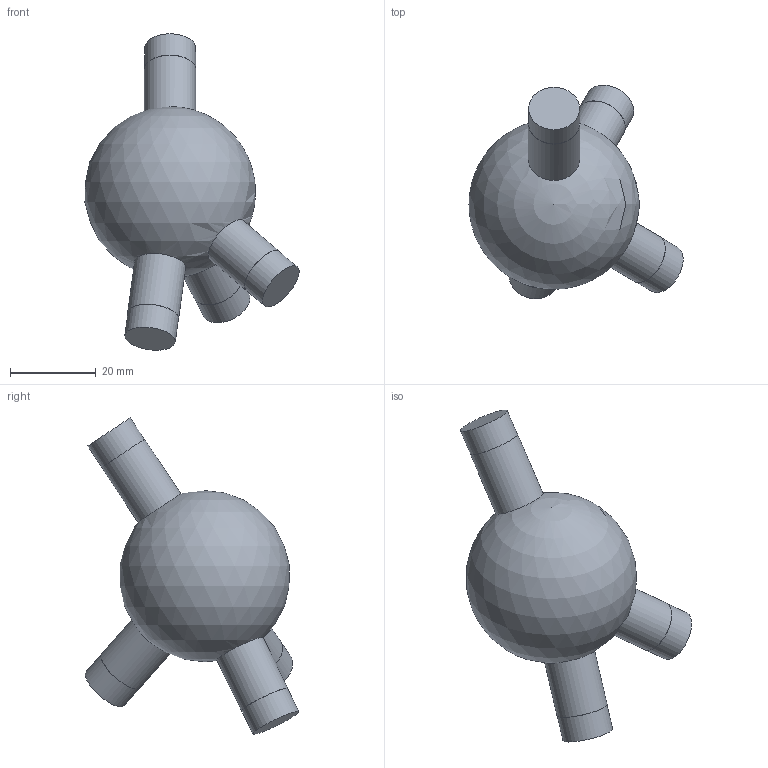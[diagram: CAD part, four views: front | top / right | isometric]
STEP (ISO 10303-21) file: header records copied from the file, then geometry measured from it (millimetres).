
FILE_DESCRIPTION(('Open CASCADE Model'),'2;1');
FILE_NAME('Open CASCADE Shape Model','2026-10-21T12:47:57',('Author'),( 'Open CASCADE'),'Open CASCADE STEP processor 7.9','Open CASCADE 7.9' ,'Unknown');
FILE_SCHEMA(('AUTOMOTIVE_DESIGN { 1 0 10303 214 1 1 1 1 }'));
Length unit declared in the file: millimetre
Products named in the file (1): Open CASCADE STEP translator 7.9 115
Bounding box: 50.02 x 49.89 x 73.9 mm (x, y, z)
Volume: 41978.8 mm3; surface area: 7916.2 mm2
Topology: 1 solids, 1 shells, 17 faces, 27 edges, 18 vertices
Faces by surface type: cylinder 8, plane 8, sphere 1
Full cylindrical faces by diameter (mm): 11.9 x4, 12 x4
Entity records: 1004 total; most frequent: CARTESIAN_POINT 419, DIRECTION 120, ORIENTED_EDGE 48, PCURVE 48, DEFINITIONAL_REPRESENTATION 48, LINE 40, VECTOR 40, AXIS2_PLACEMENT_3D 34
